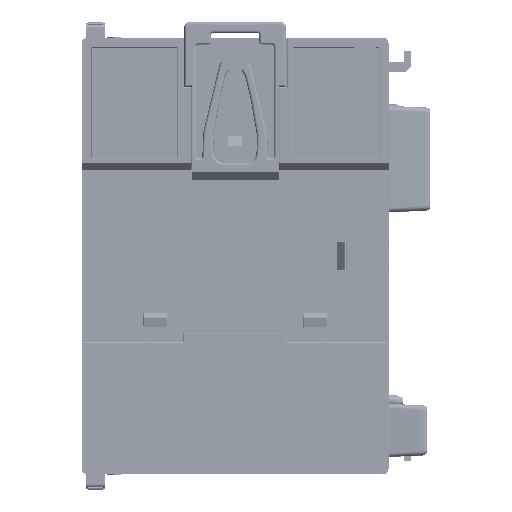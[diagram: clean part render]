
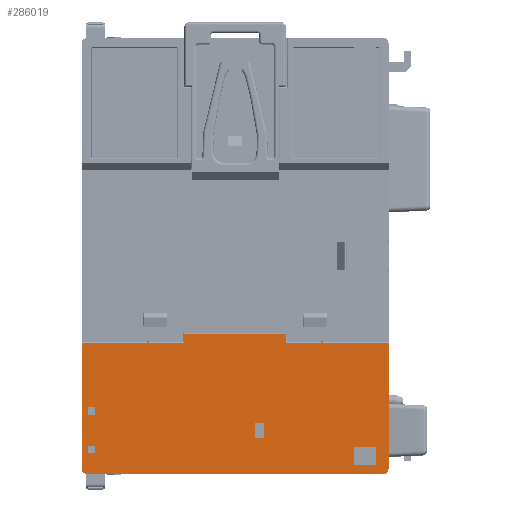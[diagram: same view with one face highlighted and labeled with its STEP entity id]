
A CAD part, front view. The second image highlights one B-rep face of the part: STEP entity #286019.
In plain terms, the highlighted planar face has unit normal (0, -1, 0).
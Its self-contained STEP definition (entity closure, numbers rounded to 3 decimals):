
#83604=DIRECTION('',(0.,0.,-1.));
#83605=VECTOR('',#83604,26.05);
#83606=CARTESIAN_POINT('',(31.65,0.,-17.95));
#83607=LINE('',#83606,#83605);
#83611=DIRECTION('',(-1.,0.,0.));
#83612=VECTOR('',#83611,61.3);
#83613=CARTESIAN_POINT('',(30.65,0.,-45.));
#83614=LINE('',#83613,#83612);
#83618=DIRECTION('',(0.,0.,1.));
#83619=VECTOR('',#83618,26.05);
#83620=CARTESIAN_POINT('',(-31.65,0.,-44.));
#83621=LINE('',#83620,#83619);
#83667=DIRECTION('',(0.,0.,1.));
#83668=VECTOR('',#83667,1.5);
#83669=CARTESIAN_POINT('',(-30.35,0.,-40.75));
#83670=LINE('',#83669,#83668);
#83674=DIRECTION('',(-1.,0.,0.));
#83675=VECTOR('',#83674,1.5);
#83676=CARTESIAN_POINT('',(-28.85,0.,-40.75));
#83677=LINE('',#83676,#83675);
#83681=DIRECTION('',(0.,0.,-1.));
#83682=VECTOR('',#83681,1.5);
#83683=CARTESIAN_POINT('',(-28.85,0.,-39.25));
#83684=LINE('',#83683,#83682);
#83688=DIRECTION('',(1.,0.,0.));
#83689=VECTOR('',#83688,1.5);
#83690=CARTESIAN_POINT('',(-30.35,0.,-39.25));
#83691=LINE('',#83690,#83689);
#83695=DIRECTION('',(0.,0.,1.));
#83696=VECTOR('',#83695,1.5);
#83697=CARTESIAN_POINT('',(-30.35,0.,-32.75));
#83698=LINE('',#83697,#83696);
#83702=DIRECTION('',(-1.,0.,0.));
#83703=VECTOR('',#83702,1.5);
#83704=CARTESIAN_POINT('',(-28.85,0.,-32.75));
#83705=LINE('',#83704,#83703);
#83709=DIRECTION('',(0.,0.,-1.));
#83710=VECTOR('',#83709,1.5);
#83711=CARTESIAN_POINT('',(-28.85,0.,-31.25));
#83712=LINE('',#83711,#83710);
#83716=DIRECTION('',(1.,0.,0.));
#83717=VECTOR('',#83716,1.5);
#83718=CARTESIAN_POINT('',(-30.35,0.,-31.25));
#83719=LINE('',#83718,#83717);
#83723=DIRECTION('',(0.,0.,1.));
#83724=VECTOR('',#83723,3.7);
#83725=CARTESIAN_POINT('',(29.1,0.,-43.2));
#83726=LINE('',#83725,#83724);
#83730=DIRECTION('',(-1.,0.,0.));
#83731=VECTOR('',#83730,4.6);
#83732=CARTESIAN_POINT('',(29.1,0.,-39.5));
#83733=LINE('',#83732,#83731);
#83737=DIRECTION('',(0.,0.,-1.));
#83738=VECTOR('',#83737,3.7);
#83739=CARTESIAN_POINT('',(24.5,0.,-39.5));
#83740=LINE('',#83739,#83738);
#83744=DIRECTION('',(1.,0.,0.));
#83745=VECTOR('',#83744,4.6);
#83746=CARTESIAN_POINT('',(24.5,0.,-43.2));
#83747=LINE('',#83746,#83745);
#83758=DIRECTION('',(0.,0.,1.));
#83759=VECTOR('',#83758,3.);
#83760=CARTESIAN_POINT('',(4.,0.,-37.5));
#83761=LINE('',#83760,#83759);
#83765=DIRECTION('',(-1.,0.,0.));
#83766=VECTOR('',#83765,2.);
#83767=CARTESIAN_POINT('',(6.,0.,-37.5));
#83768=LINE('',#83767,#83766);
#83772=DIRECTION('',(0.,0.,-1.));
#83773=VECTOR('',#83772,3.);
#83774=CARTESIAN_POINT('',(6.,0.,-34.5));
#83775=LINE('',#83774,#83773);
#83779=DIRECTION('',(1.,0.,0.));
#83780=VECTOR('',#83779,2.);
#83781=CARTESIAN_POINT('',(4.,0.,-34.5));
#83782=LINE('',#83781,#83780);
#83786=DIRECTION('',(-1.,0.,0.));
#83787=VECTOR('',#83786,7.3);
#83788=CARTESIAN_POINT('',(17.85,0.,-17.95));
#83789=LINE('',#83788,#83787);
#83811=DIRECTION('',(0.,0.,1.));
#83812=VECTOR('',#83811,1.95);
#83813=CARTESIAN_POINT('',(10.55,0.,-17.95));
#83814=LINE('',#83813,#83812);
#83843=DIRECTION('',(-1.,0.,0.));
#83844=VECTOR('',#83843,21.1);
#83845=CARTESIAN_POINT('',(10.55,0.,-16.));
#83846=LINE('',#83845,#83844);
#83873=DIRECTION('',(0.,0.,-1.));
#83874=VECTOR('',#83873,1.95);
#83875=CARTESIAN_POINT('',(-10.55,0.,-16.));
#83876=LINE('',#83875,#83874);
#83912=DIRECTION('',(-1.,0.,0.));
#83913=VECTOR('',#83912,7.3);
#83914=CARTESIAN_POINT('',(-10.55,0.,-17.95));
#83915=LINE('',#83914,#83913);
#84011=DIRECTION('',(-1.,0.,0.));
#84012=VECTOR('',#84011,13.5);
#84013=CARTESIAN_POINT('',(-18.15,0.,-17.95));
#84014=LINE('',#84013,#84012);
#84026=CARTESIAN_POINT('',(-18.,0.,-17.75));
#84027=DIRECTION('',(0.,-1.,0.));
#84028=DIRECTION('',(0.6,0.,-0.8));
#84029=AXIS2_PLACEMENT_3D('',#84026,#84027,#84028);
#90049=CARTESIAN_POINT('',(30.65,0.,-44.));
#90050=DIRECTION('',(0.,-1.,0.));
#90051=DIRECTION('',(0.,0.,-1.));
#90052=AXIS2_PLACEMENT_3D('',#90049,#90050,#90051);
#92496=CARTESIAN_POINT('',(-30.65,0.,-44.));
#92497=DIRECTION('',(0.,-1.,0.));
#92498=DIRECTION('',(-1.,0.,0.));
#92499=AXIS2_PLACEMENT_3D('',#92496,#92497,#92498);
#107830=DIRECTION('',(-1.,0.,0.));
#107831=VECTOR('',#107830,13.5);
#107832=CARTESIAN_POINT('',(31.65,0.,-17.95));
#107833=LINE('',#107832,#107831);
#107848=CARTESIAN_POINT('',(18.,0.,-17.75));
#107849=DIRECTION('',(0.,-1.,0.));
#107850=DIRECTION('',(0.6,0.,-0.8));
#107851=AXIS2_PLACEMENT_3D('',#107848,#107849,#107850);
#170780=CARTESIAN_POINT('',(30.65,0.,-45.));
#170781=CARTESIAN_POINT('',(31.65,0.,-44.));
#170782=VERTEX_POINT('',#170780);
#170783=VERTEX_POINT('',#170781);
#170784=CARTESIAN_POINT('',(-31.65,0.,-44.));
#170785=CARTESIAN_POINT('',(-30.65,0.,-45.));
#170786=VERTEX_POINT('',#170784);
#170787=VERTEX_POINT('',#170785);
#170912=CARTESIAN_POINT('',(17.85,0.,-17.95));
#170913=CARTESIAN_POINT('',(10.55,0.,-17.95));
#170914=VERTEX_POINT('',#170912);
#170915=VERTEX_POINT('',#170913);
#170920=CARTESIAN_POINT('',(10.55,0.,-16.));
#170921=VERTEX_POINT('',#170920);
#170934=CARTESIAN_POINT('',(-10.55,0.,-16.));
#170935=VERTEX_POINT('',#170934);
#170936=CARTESIAN_POINT('',(-10.55,0.,-17.95));
#170937=VERTEX_POINT('',#170936);
#170942=CARTESIAN_POINT('',(-17.85,0.,-17.95));
#170943=VERTEX_POINT('',#170942);
#170964=CARTESIAN_POINT('',(-18.15,0.,-17.95));
#170965=CARTESIAN_POINT('',(-31.65,0.,-17.95));
#170966=VERTEX_POINT('',#170964);
#170967=VERTEX_POINT('',#170965);
#170972=CARTESIAN_POINT('',(31.65,0.,-17.95));
#170973=VERTEX_POINT('',#170972);
#170974=CARTESIAN_POINT('',(18.15,0.,-17.95));
#170975=VERTEX_POINT('',#170974);
#171209=CARTESIAN_POINT('',(-30.35,0.,-40.75));
#171210=CARTESIAN_POINT('',(-30.35,0.,-39.25));
#171211=VERTEX_POINT('',#171209);
#171212=VERTEX_POINT('',#171210);
#171213=CARTESIAN_POINT('',(-28.85,0.,-39.25));
#171214=VERTEX_POINT('',#171213);
#171215=CARTESIAN_POINT('',(-28.85,0.,-40.75));
#171216=VERTEX_POINT('',#171215);
#171217=CARTESIAN_POINT('',(-30.35,0.,-32.75));
#171218=CARTESIAN_POINT('',(-30.35,0.,-31.25));
#171219=VERTEX_POINT('',#171217);
#171220=VERTEX_POINT('',#171218);
#171221=CARTESIAN_POINT('',(-28.85,0.,-31.25));
#171222=VERTEX_POINT('',#171221);
#171223=CARTESIAN_POINT('',(-28.85,0.,-32.75));
#171224=VERTEX_POINT('',#171223);
#171237=CARTESIAN_POINT('',(24.5,0.,-43.2));
#171238=CARTESIAN_POINT('',(29.1,0.,-43.2));
#171239=VERTEX_POINT('',#171237);
#171240=VERTEX_POINT('',#171238);
#171243=CARTESIAN_POINT('',(4.,0.,-37.5));
#171244=CARTESIAN_POINT('',(4.,0.,-34.5));
#171245=VERTEX_POINT('',#171243);
#171246=VERTEX_POINT('',#171244);
#171247=CARTESIAN_POINT('',(6.,0.,-34.5));
#171248=VERTEX_POINT('',#171247);
#171249=CARTESIAN_POINT('',(6.,0.,-37.5));
#171250=VERTEX_POINT('',#171249);
#172455=CARTESIAN_POINT('',(29.1,0.,-39.5));
#172456=VERTEX_POINT('',#172455);
#172457=CARTESIAN_POINT('',(24.5,0.,-39.5));
#172458=VERTEX_POINT('',#172457);
#285946=CARTESIAN_POINT('',(0.,0.,0.));
#285947=DIRECTION('',(0.,1.,0.));
#285948=DIRECTION('',(1.,0.,0.));
#285949=AXIS2_PLACEMENT_3D('',#285946,#285947,#285948);
#285950=PLANE('',#285949);
#285952=ORIENTED_EDGE('',*,*,#285951,.F.);
#285954=ORIENTED_EDGE('',*,*,#285953,.F.);
#285956=ORIENTED_EDGE('',*,*,#285955,.F.);
#285957=ORIENTED_EDGE('',*,*,#281555,.T.);
#285959=ORIENTED_EDGE('',*,*,#285958,.F.);
#285960=ORIENTED_EDGE('',*,*,#271613,.T.);
#285962=ORIENTED_EDGE('',*,*,#285961,.F.);
#285964=ORIENTED_EDGE('',*,*,#285963,.T.);
#285966=ORIENTED_EDGE('',*,*,#285965,.F.);
#285968=ORIENTED_EDGE('',*,*,#285967,.F.);
#285970=ORIENTED_EDGE('',*,*,#285969,.F.);
#285972=ORIENTED_EDGE('',*,*,#285971,.F.);
#285974=ORIENTED_EDGE('',*,*,#285973,.F.);
#285976=ORIENTED_EDGE('',*,*,#285975,.F.);
#285977=EDGE_LOOP('',(#285952,#285954,#285956,#285957,#285959,#285960,#285962,
#285964,#285966,#285968,#285970,#285972,#285974,#285976));
#285978=FACE_OUTER_BOUND('',#285977,.F.);
#285980=ORIENTED_EDGE('',*,*,#285979,.F.);
#285982=ORIENTED_EDGE('',*,*,#285981,.F.);
#285984=ORIENTED_EDGE('',*,*,#285983,.F.);
#285986=ORIENTED_EDGE('',*,*,#285985,.F.);
#285987=EDGE_LOOP('',(#285980,#285982,#285984,#285986));
#285988=FACE_BOUND('',#285987,.F.);
#285990=ORIENTED_EDGE('',*,*,#285989,.F.);
#285992=ORIENTED_EDGE('',*,*,#285991,.F.);
#285994=ORIENTED_EDGE('',*,*,#285993,.F.);
#285996=ORIENTED_EDGE('',*,*,#285995,.F.);
#285997=EDGE_LOOP('',(#285990,#285992,#285994,#285996));
#285998=FACE_BOUND('',#285997,.F.);
#286000=ORIENTED_EDGE('',*,*,#285999,.T.);
#286002=ORIENTED_EDGE('',*,*,#286001,.T.);
#286004=ORIENTED_EDGE('',*,*,#286003,.T.);
#286006=ORIENTED_EDGE('',*,*,#286005,.T.);
#286007=EDGE_LOOP('',(#286000,#286002,#286004,#286006));
#286008=FACE_BOUND('',#286007,.F.);
#286010=ORIENTED_EDGE('',*,*,#286009,.F.);
#286012=ORIENTED_EDGE('',*,*,#286011,.F.);
#286014=ORIENTED_EDGE('',*,*,#286013,.F.);
#286016=ORIENTED_EDGE('',*,*,#286015,.F.);
#286017=EDGE_LOOP('',(#286010,#286012,#286014,#286016));
#286018=FACE_BOUND('',#286017,.F.);
#286019=ADVANCED_FACE('',(#285978,#285988,#285998,#286008,#286018),#285950,.F.);
#84030=CIRCLE('',#84029,0.25);
#90053=CIRCLE('',#90052,1.);
#92500=CIRCLE('',#92499,1.);
#107852=CIRCLE('',#107851,0.25);
#271613=EDGE_CURVE('',#170782,#170787,#83614,.T.);
#281555=EDGE_CURVE('',#170973,#170783,#83607,.T.);
#285951=EDGE_CURVE('',#170914,#170915,#83789,.T.);
#285953=EDGE_CURVE('',#170975,#170914,#107852,.T.);
#285955=EDGE_CURVE('',#170973,#170975,#107833,.T.);
#285958=EDGE_CURVE('',#170782,#170783,#90053,.T.);
#285961=EDGE_CURVE('',#170786,#170787,#92500,.T.);
#285963=EDGE_CURVE('',#170786,#170967,#83621,.T.);
#285965=EDGE_CURVE('',#170966,#170967,#84014,.T.);
#285967=EDGE_CURVE('',#170943,#170966,#84030,.T.);
#285969=EDGE_CURVE('',#170937,#170943,#83915,.T.);
#285971=EDGE_CURVE('',#170935,#170937,#83876,.T.);
#285973=EDGE_CURVE('',#170921,#170935,#83846,.T.);
#285975=EDGE_CURVE('',#170915,#170921,#83814,.T.);
#285979=EDGE_CURVE('',#171211,#171212,#83670,.T.);
#285981=EDGE_CURVE('',#171216,#171211,#83677,.T.);
#285983=EDGE_CURVE('',#171214,#171216,#83684,.T.);
#285985=EDGE_CURVE('',#171212,#171214,#83691,.T.);
#285989=EDGE_CURVE('',#171219,#171220,#83698,.T.);
#285991=EDGE_CURVE('',#171224,#171219,#83705,.T.);
#285993=EDGE_CURVE('',#171222,#171224,#83712,.T.);
#285995=EDGE_CURVE('',#171220,#171222,#83719,.T.);
#285999=EDGE_CURVE('',#171240,#172456,#83726,.T.);
#286001=EDGE_CURVE('',#172456,#172458,#83733,.T.);
#286003=EDGE_CURVE('',#172458,#171239,#83740,.T.);
#286005=EDGE_CURVE('',#171239,#171240,#83747,.T.);
#286009=EDGE_CURVE('',#171245,#171246,#83761,.T.);
#286011=EDGE_CURVE('',#171250,#171245,#83768,.T.);
#286013=EDGE_CURVE('',#171248,#171250,#83775,.T.);
#286015=EDGE_CURVE('',#171246,#171248,#83782,.T.);
